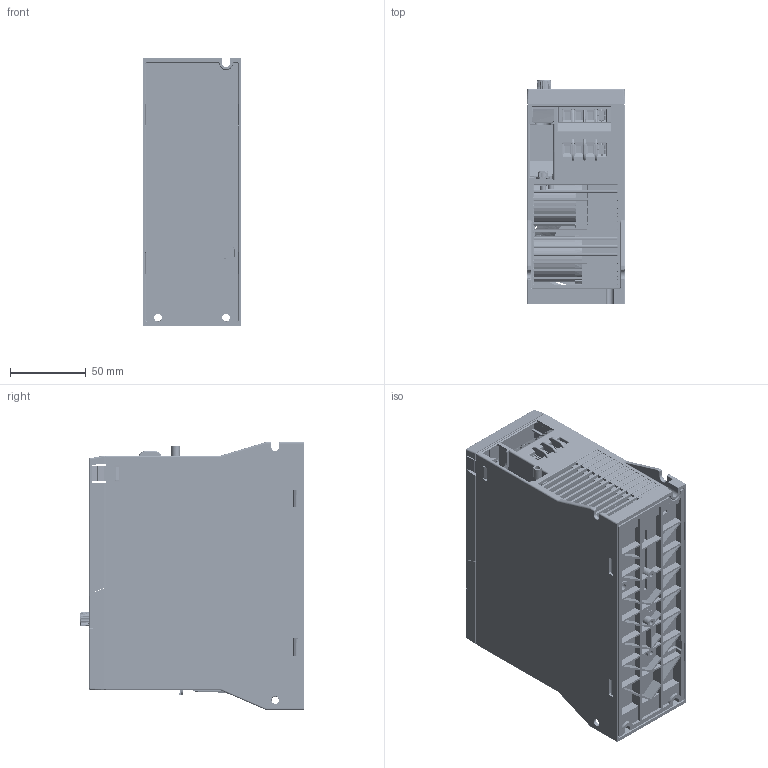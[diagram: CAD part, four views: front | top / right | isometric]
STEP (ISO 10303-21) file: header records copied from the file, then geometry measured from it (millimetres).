
FILE_DESCRIPTION((''),'2;1');
FILE_NAME('0-AC10-T3-2R2G-VEDA_ASM','2023-07-12T',('v3932'),(''),'CREO PARAMETRIC BY PTC INC, 2016260','CREO PARAMETRIC BY PTC INC, 2016260','');
FILE_SCHEMA(('AP203_CONFIGURATION_CONTROLLED_3D_DESIGN_OF_MECHANICAL_PARTS_AND_ASSEMBLIES_MIM_LF { 1 0 10303 403 2 1 2 }'));
Products named in the file (49): PCB_TERMINAL; TJ952-02-4P-T2; PCB_TERMINAL_ASM; PCB_S2_ASM; PCB_AC10CON1; DG127-508-03P-1Y-00A; SWITCH_6X6; SMG; EL-DWG; DS-04; 12P_1; PRT0002_1; PRT0003_1; PRT0004_2; ASM0001_ASM_4_ASM; EU1-12-3_50-00_ASM; PCB_AC10CON1_ASM; F06025N68D024_SM085-1390010006; FP10R12W1T4-1010010011; ELT-RNB-5_5-5; RJ45; BYQ; ELT-XHS-2A-2_5; ELT-XHS-2Y-2_5; ELT-XHS-2P-2_5_ASM; AC10M2R2H40-0613; TO-3-0613; PCB_AC10P1-2R2-0613; PCB_T3-0613_ASM; PCB03; PRT0003; PRT0004; PCB03_ASM; AC10-T3-2R2G-D_ASM; AC10-T3-2R2G-VEDA-P001; AC10-T3-2R2G-VEDA-P003; AC10-T3-2R2G-VEDA-P005; AC10-T3-2R2G-VEDA-P008; AC10-T3-2R2G-VEDA-P009; AC10-T3-2R2G-VEDA-P1_ASM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
Assembly tree (90 placements, depth 6):
  0-AC10-T3-2R2G-VEDA_ASM
    AC10-T3-2R2G-D_ASM
      PCB_S2_ASM
        PCB_TERMINAL_ASM  x2
          PCB_TERMINAL
          TJ952-02-4P-T2
      PCB_AC10CON1_ASM
        PCB_AC10CON1
        DG127-508-03P-1Y-00A
        SWITCH_6X6  x6
        SMG
        EL-DWG
        DS-04
        EU1-12-3_50-00_ASM
          ASM0001_ASM_4_ASM
            12P_1
            PRT0002_1  x12
            PRT0003_1  x12
            PRT0004_2  x12
      F06025N68D024_SM085-1390010006
      FP10R12W1T4-1010010011
      ELT-RNB-5_5-5
      RJ45  x2
      BYQ
      ELT-XHS-2P-2_5_ASM
        ELT-XHS-2A-2_5
        ELT-XHS-2Y-2_5
      PCB_T3-0613_ASM
        AC10M2R2H40-0613
        TO-3-0613
        PCB_AC10P1-2R2-0613
      PCB03_ASM
        PCB03
        PRT0003
        PRT0004
    AC10-T3-2R2G-VEDA-P1_ASM
      AC10-T3-2R2G-VEDA-P001
      AC10-T3-2R2G-VEDA-P003
      AC10-T3-2R2G-VEDA-P005
      AC10-T3-2R2G-VEDA-P008
      AC10-T3-2R2G-VEDA-P009
    AC10-T3-2R2G-F001
    AC10-T3-2R2G-H001
    AC10-T3-2R2G-P007
    AC10-T3-2R2G-S001
    AC10-T3-2R2G-0S_ASM
      M4X10_GB9074_8
      M4X20_GB9074_8  x2
      M3X8_GB818-2000  x2
Bounding box: 65 x 147.85 x 177 mm (x, y, z)
Volume: 509179.9 mm3; surface area: 456380.7 mm2
Topology: 82 solids, 95 shells, 11427 faces, 54583 edges, 56675 vertices
Faces by surface type: plane 6733, cylinder 2211, extrusion 860, bspline 742, cone 606, torus 215, sphere 60
Entity records: 658887 total; most frequent: CARTESIAN_POINT 144691, DIRECTION 72693, PRESENTATION_STYLE_ASSIGNMENT 51160, STYLED_ITEM 50849, ORIENTED_EDGE 50095, CURVE_STYLE 46574, VECTOR 29625, LINE 28765
